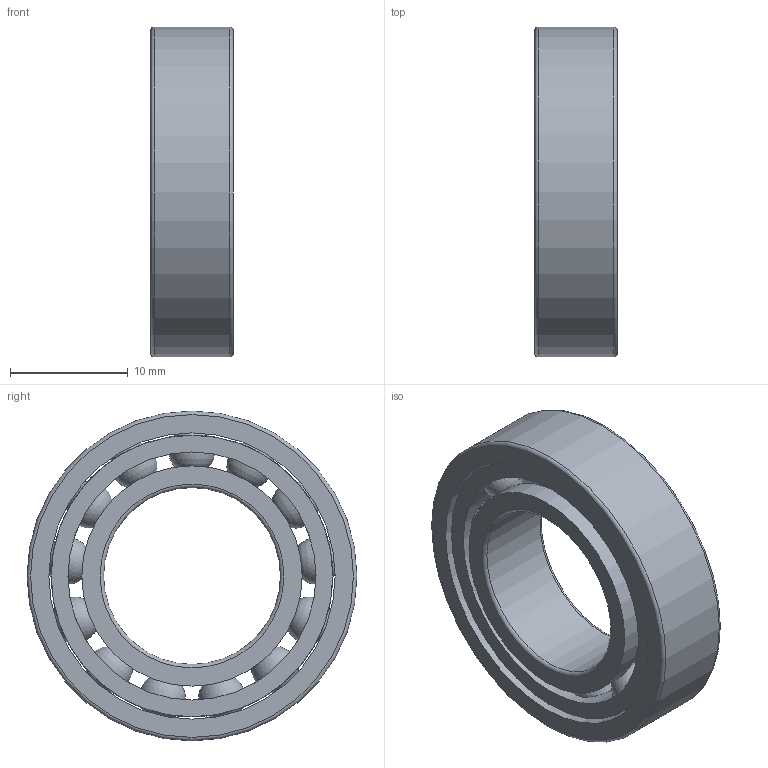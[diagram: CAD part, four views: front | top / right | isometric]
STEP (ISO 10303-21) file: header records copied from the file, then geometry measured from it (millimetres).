
FILE_DESCRIPTION(/* description */ (''),/* implementation_level */ '2;1');
FILE_NAME(/* name */ 'SM_61902_TA.step',/* time_stamp */ '2013-03-11T11:35:15+01:00',/* author */ ('Marian'),/* organization */ ('GMN'),/* preprocessor_version */ 'ST-DEVELOPER v11',/* originating_system */ 'SIEMENS UGS NX 6.0',/* authorisation */ '');
FILE_SCHEMA (('CONFIG_CONTROL_DESIGN'));
Length unit declared in the file: millimetre
Products named in the file (1): SM_61902_TA
Bounding box: 7 x 28 x 28 mm (x, y, z)
Volume: 2260.9 mm3; surface area: 3927.6 mm2
Topology: 16 solids, 16 shells, 46 faces, 112 edges, 72 vertices
Faces by surface type: cylinder 20, sphere 13, torus 6, plane 6, cone 1
Full cylindrical faces by diameter (mm): 4.169 x13, 15 x1, 18.7 x2, 21.049 x1, 23.9 x1, 24.3 x1, 28 x1
Entity records: 2500 total; most frequent: CARTESIAN_POINT 1634, DIRECTION 134, FACE_BOUND 105, EDGE_LOOP 92, ORIENTED_EDGE 92, AXIS2_PLACEMENT_3D 67, VERTEX_POINT 59, EDGE_CURVE 46
